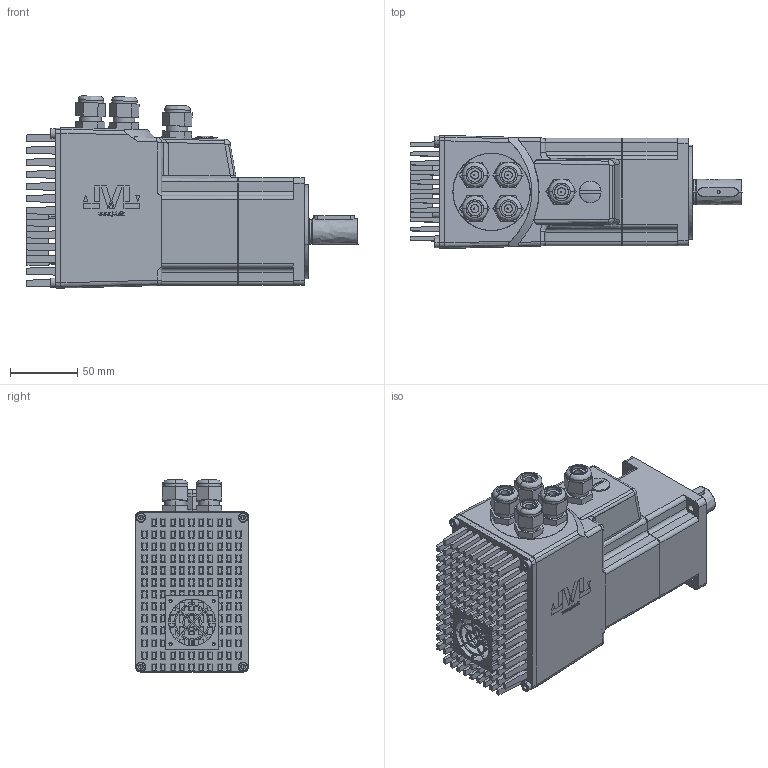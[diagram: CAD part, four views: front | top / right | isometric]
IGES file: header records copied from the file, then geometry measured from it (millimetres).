
Start section: MAC800-D4
Global section: file name: Mac800-D4.igs; native system:  By Spatial Corp.; preprocessor: XPlus GENERIC/IGES 3.0; author: www.stream-design.com; organization: www.jvl.dk; date: 20051206.085453; units: millimetre
Bounding box: 247 x 83.93 x 143.02 mm (x, y, z)
Surface area: 230929.5 mm2 (no closed solid volume)
Topology: 0 solids, 0 shells, 2012 faces, 10269 edges, 10247 vertices
Faces by surface type: bspline 2012
